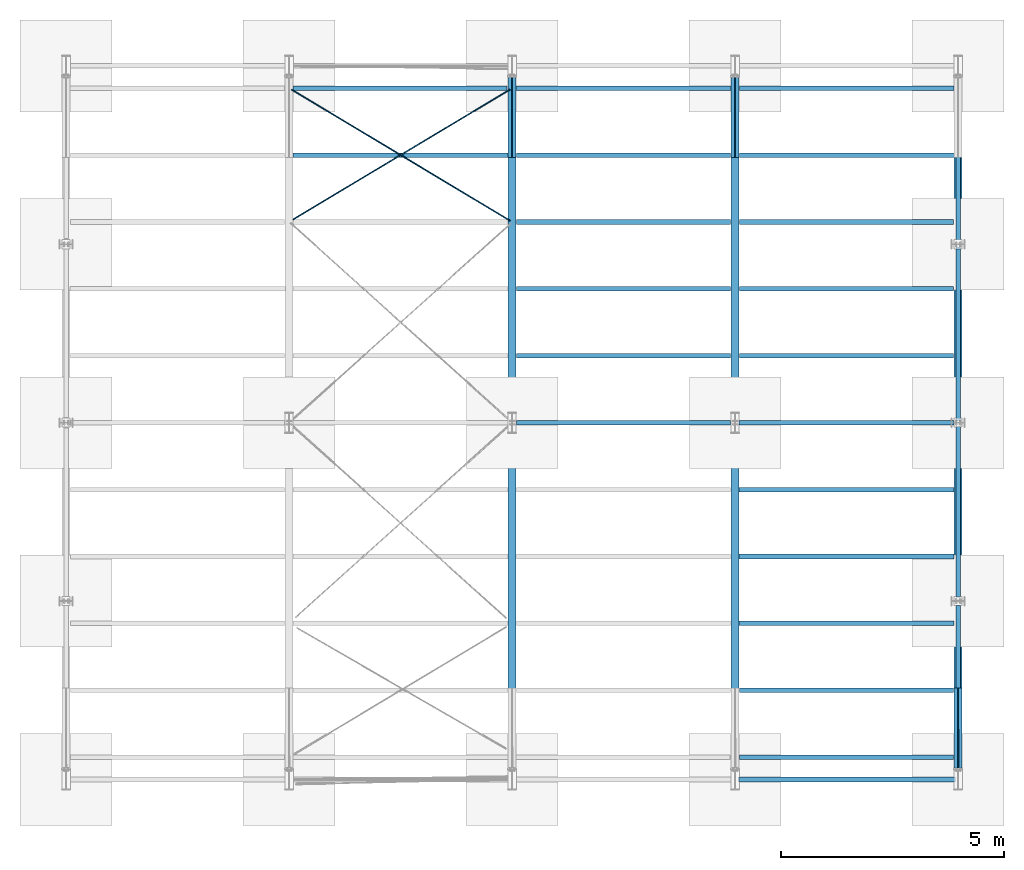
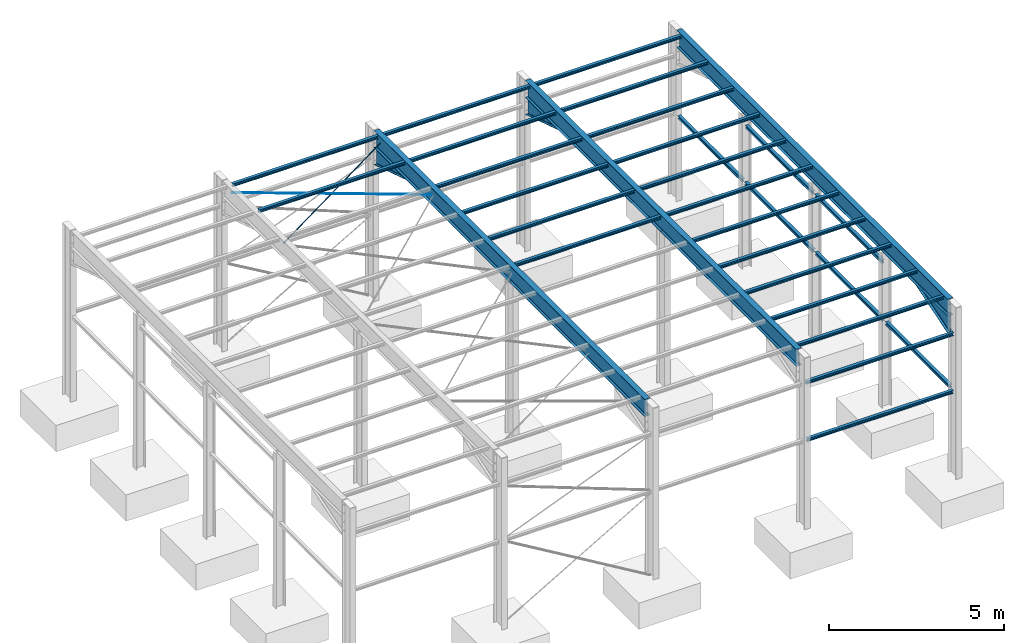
# Not in any storey, part 4 of 51: 32 beams, 4 members, 24 openings.
"""IFC4 model written with IfcOpenShell, lengths in feet."""

from ifc_helpers import new_model, entity, si_unit, converted_unit, direction, frame, frame_2d, origin, origin_2d, place, context, project, spatial, polyline, circle, i_section, outline, extrude, clip, halfspace, material, type_object, element, save


model = new_model("IFC4")

# Units and contexts
model_context = context("Model", 3, precision=0.0001, world=origin(), true_north=direction((6.123233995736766e-17, 1.0)))
ifc_project = project(units=[converted_unit("LENGTHUNIT", "FOOT", entity("IfcLengthMeasure", 0.3048), si_unit("LENGTHUNIT", "METRE"), dimensions=[1, 0, 0, 0, 0, 0, 0]), converted_unit("AREAUNIT", "SQUARE INCH", entity("IfcAreaMeasure", 0.0006451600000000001), si_unit("AREAUNIT", "SQUARE_METRE"), dimensions=[2, 0, 0, 0, 0, 0, 0]), converted_unit("PLANEANGLEUNIT", "DEGREE", entity("IfcPlaneAngleMeasure", 0.017453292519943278), si_unit("PLANEANGLEUNIT", "RADIAN"), dimensions=[0, 0, 0, 0, 0, 0, 0]), si_unit("VOLUMEUNIT", "CUBIC_METRE")], contexts=[model_context])

# Site
site_placement = place(None, origin())
site = spatial("IfcSite", under=ifc_project, at=site_placement, Name="Default", CompositionType="ELEMENT")

# Beam, openings
ifc_material_1 = material(Name="Steel ASTM A992", Category="Metal")
beam_type_1 = type_object("IfcBeamType", Name="W Shapes:W24X55", PredefinedType="BEAM")
beam_1_placement = place(site_placement, frame((44.06213571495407, 60.94091803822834, 18.701706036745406), z_axis=(0.0, 1.0, 0.0), x_axis=(-1.0, 0.0, 0.0)))
beam_1 = element("IfcBeam", 1, at=beam_1_placement, inside=site, type_object=beam_type_1, material=ifc_material_1, Name="W Shapes:W24X55", ObjectType="W24X55", context=model_context, shape_type="Clipping", body=[
    clip(clip(extrude(i_section(OverallWidth=0.5841666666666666, OverallDepth=1.9666666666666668, WebThickness=0.032916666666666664, FlangeThickness=0.042083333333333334, FilletRadius=0.042083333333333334, at=origin_2d()), origin(), (0.0, 0.0, -1.0), 57.71409169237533), halfspace(frame((44.06213571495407, -18.701706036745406, -3.824749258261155), z_axis=(0.0, 0.0, -1.0), x_axis=(-1.0, 0.0, 0.0)), True)), halfspace(frame((44.06213571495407, -18.701706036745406, -54.65361408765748), z_axis=(0.0, 0.0, 1.0), x_axis=(1.0, 0.0, 0.0)), True)),
])
opening_1_placement = place(beam_1_placement, frame((0.0, -0.9849737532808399, -29.23918167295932), z_axis=(0.0, 1.0, 0.0), x_axis=(0.0, 0.0, -1.0)))
element("IfcOpeningElement", 2, at=opening_1_placement, cuts=beam_1, ObjectType="Opening", context=model_context, shape_type="SweptSolid", body=[
    extrude(circle(Radius=0.03385744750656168, at=frame_2d((0.125, 0.14583333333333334), x_axis=(1.0, 0.0))), origin(), (0.0, 0.0, 1.0), 0.045364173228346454),
])
opening_2_placement = place(beam_1_placement, frame((0.0, -0.9849737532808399, -29.23918167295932), z_axis=(0.0, 1.0, 0.0), x_axis=(0.0, 0.0, -1.0)))
element("IfcOpeningElement", 3, at=opening_2_placement, cuts=beam_1, ObjectType="Opening", context=model_context, shape_type="SweptSolid", body=[
    extrude(circle(Radius=0.03385744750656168, at=frame_2d((-0.125, 0.14583333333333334), x_axis=(1.0, 0.0))), origin(), (0.0, 0.0, 1.0), 0.045364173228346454),
])
opening_3_placement = place(beam_1_placement, frame((0.0, -0.9849737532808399, -29.23918167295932), z_axis=(0.0, 1.0, 0.0), x_axis=(0.0, 0.0, -1.0)))
element("IfcOpeningElement", 4, at=opening_3_placement, cuts=beam_1, ObjectType="Opening", context=model_context, shape_type="SweptSolid", body=[
    extrude(circle(Radius=0.03385744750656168, at=frame_2d((0.125, -0.14583333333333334), x_axis=(1.0, 0.0))), origin(), (0.0, 0.0, 1.0), 0.045364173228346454),
])
opening_4_placement = place(beam_1_placement, frame((0.0, -0.9849737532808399, -29.23918167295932), z_axis=(0.0, 1.0, 0.0), x_axis=(0.0, 0.0, -1.0)))
element("IfcOpeningElement", 5, at=opening_4_placement, cuts=beam_1, ObjectType="Opening", context=model_context, shape_type="SweptSolid", body=[
    extrude(circle(Radius=0.03385744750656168, at=frame_2d((-0.125, -0.14583333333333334), x_axis=(1.0, 0.0))), origin(), (0.0, 0.0, 1.0), 0.045364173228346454),
])

beam_2_placement = place(site_placement, frame((60.46633519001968, 60.94091803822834, 18.701706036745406), z_axis=(0.0, 1.0, 0.0), x_axis=(-1.0, 0.0, 0.0)))
beam_2 = element("IfcBeam", 6, at=beam_2_placement, inside=site, type_object=beam_type_1, material=ifc_material_1, Name="W Shapes:W24X55", ObjectType="W24X55", context=model_context, shape_type="Clipping", body=[
    clip(clip(extrude(i_section(OverallWidth=0.5841666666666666, OverallDepth=1.9666666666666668, WebThickness=0.032916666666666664, FlangeThickness=0.042083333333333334, FilletRadius=0.042083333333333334, at=origin_2d()), origin(), (0.0, 0.0, -1.0), 57.734925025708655), halfspace(frame((60.46633519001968, -18.701706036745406, -54.65361408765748), z_axis=(0.0, 0.0, 1.0), x_axis=(1.0, 0.0, 0.0)), True)), halfspace(frame((60.46633519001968, -18.701706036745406, -3.824749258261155), z_axis=(0.0, 0.0, -1.0), x_axis=(-1.0, 0.0, 0.0)), True)),
])
opening_5_placement = place(beam_2_placement, frame((0.0, -0.9849737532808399, -29.23918167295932), z_axis=(0.0, 1.0, 0.0), x_axis=(0.0, 0.0, -1.0)))
element("IfcOpeningElement", 7, at=opening_5_placement, cuts=beam_2, ObjectType="Opening", context=model_context, shape_type="SweptSolid", body=[
    extrude(circle(Radius=0.03385744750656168, at=frame_2d((0.125, 0.14583333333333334), x_axis=(1.0, 0.0))), origin(), (0.0, 0.0, 1.0), 0.045364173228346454),
])
opening_6_placement = place(beam_2_placement, frame((0.0, -0.9849737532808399, -29.23918167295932), z_axis=(0.0, 1.0, 0.0), x_axis=(0.0, 0.0, -1.0)))
element("IfcOpeningElement", 8, at=opening_6_placement, cuts=beam_2, ObjectType="Opening", context=model_context, shape_type="SweptSolid", body=[
    extrude(circle(Radius=0.03385744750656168, at=frame_2d((-0.125, 0.14583333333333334), x_axis=(1.0, 0.0))), origin(), (0.0, 0.0, 1.0), 0.045364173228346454),
])
opening_7_placement = place(beam_2_placement, frame((0.0, -0.9849737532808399, -29.23918167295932), z_axis=(0.0, 1.0, 0.0), x_axis=(0.0, 0.0, -1.0)))
element("IfcOpeningElement", 9, at=opening_7_placement, cuts=beam_2, ObjectType="Opening", context=model_context, shape_type="SweptSolid", body=[
    extrude(circle(Radius=0.03385744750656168, at=frame_2d((0.125, -0.14583333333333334), x_axis=(1.0, 0.0))), origin(), (0.0, 0.0, 1.0), 0.045364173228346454),
])
opening_8_placement = place(beam_2_placement, frame((0.0, -0.9849737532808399, -29.23918167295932), z_axis=(0.0, 1.0, 0.0), x_axis=(0.0, 0.0, -1.0)))
element("IfcOpeningElement", 10, at=opening_8_placement, cuts=beam_2, ObjectType="Opening", context=model_context, shape_type="SweptSolid", body=[
    extrude(circle(Radius=0.03385744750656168, at=frame_2d((-0.125, -0.14583333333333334), x_axis=(1.0, 0.0))), origin(), (0.0, 0.0, 1.0), 0.045364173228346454),
])

beam_3_placement = place(site_placement, frame((76.87053466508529, 60.94091803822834, 18.701706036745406), z_axis=(0.0, 1.0, 0.0), x_axis=(-1.0, 0.0, 0.0)))
beam_3 = element("IfcBeam", 11, at=beam_3_placement, inside=site, type_object=beam_type_1, material=ifc_material_1, Name="W Shapes:W24X55", ObjectType="W24X55", context=model_context, shape_type="Clipping", body=[
    clip(clip(clip(extrude(i_section(OverallWidth=0.5841666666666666, OverallDepth=1.9666666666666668, WebThickness=0.032916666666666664, FlangeThickness=0.042083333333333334, FilletRadius=0.042083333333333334, at=origin_2d()), origin(), (0.0, 0.0, -1.0), 58.47836334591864), halfspace(frame((76.87053466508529, -18.701706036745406, -3.824749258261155), z_axis=(0.0, 0.0, -1.0), x_axis=(-1.0, 0.0, 0.0)), True)), halfspace(frame((76.87053466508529, -18.701706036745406, -54.65361408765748), z_axis=(0.0, 0.0, 1.0), x_axis=(1.0, 0.0, 0.0)), True)), halfspace(frame((76.87053466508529, -18.701706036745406, -54.65361408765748), z_axis=(0.0, 0.0, 1.0), x_axis=(1.0, 0.0, 0.0)), True)),
])
opening_9_placement = place(beam_3_placement, frame((0.0, -0.9849737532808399, -42.36254125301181), z_axis=(0.0, 1.0, 0.0), x_axis=(0.0, 0.0, -1.0)))
element("IfcOpeningElement", 12, at=opening_9_placement, cuts=beam_3, ObjectType="Opening", context=model_context, shape_type="SweptSolid", body=[
    extrude(circle(Radius=0.03385744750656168, at=frame_2d((0.125, 0.14583333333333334), x_axis=(1.0, 0.0))), origin(), (0.0, 0.0, 1.0), 0.045364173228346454),
])
opening_10_placement = place(beam_3_placement, frame((0.0, -0.9849737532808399, -42.36254125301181), z_axis=(0.0, 1.0, 0.0), x_axis=(0.0, 0.0, -1.0)))
element("IfcOpeningElement", 13, at=opening_10_placement, cuts=beam_3, ObjectType="Opening", context=model_context, shape_type="SweptSolid", body=[
    extrude(circle(Radius=0.03385744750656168, at=frame_2d((-0.125, 0.14583333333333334), x_axis=(1.0, 0.0))), origin(), (0.0, 0.0, 1.0), 0.045364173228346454),
])
opening_11_placement = place(beam_3_placement, frame((0.0, -0.9849737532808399, -42.36254125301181), z_axis=(0.0, 1.0, 0.0), x_axis=(0.0, 0.0, -1.0)))
element("IfcOpeningElement", 14, at=opening_11_placement, cuts=beam_3, ObjectType="Opening", context=model_context, shape_type="SweptSolid", body=[
    extrude(circle(Radius=0.03385744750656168, at=frame_2d((0.125, -0.14583333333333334), x_axis=(1.0, 0.0))), origin(), (0.0, 0.0, 1.0), 0.045364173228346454),
])
opening_12_placement = place(beam_3_placement, frame((0.0, -0.9849737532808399, -42.36254125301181), z_axis=(0.0, 1.0, 0.0), x_axis=(0.0, 0.0, -1.0)))
element("IfcOpeningElement", 15, at=opening_12_placement, cuts=beam_3, ObjectType="Opening", context=model_context, shape_type="SweptSolid", body=[
    extrude(circle(Radius=0.03385744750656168, at=frame_2d((-0.125, -0.14583333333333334), x_axis=(1.0, 0.0))), origin(), (0.0, 0.0, 1.0), 0.045364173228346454),
])
opening_13_placement = place(beam_3_placement, frame((0.0, -0.9849737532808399, -29.23918167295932), z_axis=(0.0, 1.0, 0.0), x_axis=(0.0, 0.0, -1.0)))
element("IfcOpeningElement", 16, at=opening_13_placement, cuts=beam_3, ObjectType="Opening", context=model_context, shape_type="SweptSolid", body=[
    extrude(circle(Radius=0.03385744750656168, at=frame_2d((0.125, 0.14583333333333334), x_axis=(1.0, 0.0))), origin(), (0.0, 0.0, 1.0), 0.045364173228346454),
])
opening_14_placement = place(beam_3_placement, frame((0.0, -0.9849737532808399, -29.23918167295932), z_axis=(0.0, 1.0, 0.0), x_axis=(0.0, 0.0, -1.0)))
element("IfcOpeningElement", 17, at=opening_14_placement, cuts=beam_3, ObjectType="Opening", context=model_context, shape_type="SweptSolid", body=[
    extrude(circle(Radius=0.03385744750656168, at=frame_2d((-0.125, 0.14583333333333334), x_axis=(1.0, 0.0))), origin(), (0.0, 0.0, 1.0), 0.045364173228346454),
])
opening_15_placement = place(beam_3_placement, frame((0.0, -0.9849737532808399, -29.23918167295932), z_axis=(0.0, 1.0, 0.0), x_axis=(0.0, 0.0, -1.0)))
element("IfcOpeningElement", 18, at=opening_15_placement, cuts=beam_3, ObjectType="Opening", context=model_context, shape_type="SweptSolid", body=[
    extrude(circle(Radius=0.03385744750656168, at=frame_2d((0.125, -0.14583333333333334), x_axis=(1.0, 0.0))), origin(), (0.0, 0.0, 1.0), 0.045364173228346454),
])
opening_16_placement = place(beam_3_placement, frame((0.0, -0.9849737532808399, -29.23918167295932), z_axis=(0.0, 1.0, 0.0), x_axis=(0.0, 0.0, -1.0)))
element("IfcOpeningElement", 19, at=opening_16_placement, cuts=beam_3, ObjectType="Opening", context=model_context, shape_type="SweptSolid", body=[
    extrude(circle(Radius=0.03385744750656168, at=frame_2d((-0.125, -0.14583333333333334), x_axis=(1.0, 0.0))), origin(), (0.0, 0.0, 1.0), 0.045364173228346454),
])
opening_17_placement = place(beam_3_placement, frame((0.0, -0.9849737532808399, -16.115822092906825), z_axis=(0.0, 1.0, 0.0), x_axis=(0.0, 0.0, 1.0)))
element("IfcOpeningElement", 20, at=opening_17_placement, cuts=beam_3, ObjectType="Opening", context=model_context, shape_type="SweptSolid", body=[
    extrude(circle(Radius=0.03385744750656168, at=frame_2d((0.125, 0.14583333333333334), x_axis=(1.0, 0.0))), origin(), (0.0, 0.0, 1.0), 0.045364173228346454),
])
opening_18_placement = place(beam_3_placement, frame((0.0, -0.9849737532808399, -16.115822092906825), z_axis=(0.0, 1.0, 0.0), x_axis=(0.0, 0.0, 1.0)))
element("IfcOpeningElement", 21, at=opening_18_placement, cuts=beam_3, ObjectType="Opening", context=model_context, shape_type="SweptSolid", body=[
    extrude(circle(Radius=0.03385744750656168, at=frame_2d((-0.125, 0.14583333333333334), x_axis=(1.0, 0.0))), origin(), (0.0, 0.0, 1.0), 0.045364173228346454),
])
opening_19_placement = place(beam_3_placement, frame((0.0, -0.9849737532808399, -16.115822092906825), z_axis=(0.0, 1.0, 0.0), x_axis=(0.0, 0.0, 1.0)))
element("IfcOpeningElement", 22, at=opening_19_placement, cuts=beam_3, ObjectType="Opening", context=model_context, shape_type="SweptSolid", body=[
    extrude(circle(Radius=0.03385744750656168, at=frame_2d((0.125, -0.14583333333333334), x_axis=(1.0, 0.0))), origin(), (0.0, 0.0, 1.0), 0.045364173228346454),
])
opening_20_placement = place(beam_3_placement, frame((0.0, -0.9849737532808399, -16.115822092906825), z_axis=(0.0, 1.0, 0.0), x_axis=(0.0, 0.0, 1.0)))
element("IfcOpeningElement", 23, at=opening_20_placement, cuts=beam_3, ObjectType="Opening", context=model_context, shape_type="SweptSolid", body=[
    extrude(circle(Radius=0.03385744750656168, at=frame_2d((-0.125, -0.14583333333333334), x_axis=(1.0, 0.0))), origin(), (0.0, 0.0, 1.0), 0.045364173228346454),
])

# Beams
beam_type_2 = type_object("IfcBeamType", Name="W Shapes:W4X13", PredefinedType="BEAM")
beam_4_placement = place(site_placement, frame((60.79966852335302, 5.455017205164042, 9.669186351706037), z_axis=(-1.0, 0.0, 0.0), x_axis=(0.0, -1.0, 0.0)))
element("IfcBeam", 24, at=beam_4_placement, inside=site, type_object=beam_type_2, material=ifc_material_1, Name="W Shapes:W4X13", ObjectType="W4X13", context=model_context, shape_type="SweptSolid", body=[
    extrude(i_section(OverallWidth=0.3383333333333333, OverallDepth=0.3466666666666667, WebThickness=0.023333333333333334, FlangeThickness=0.028749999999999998, FilletRadius=0.020833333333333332, at=origin_2d()), origin(), (0.0, 0.0, -1.0), 15.833333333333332),
])
beam_5_placement = place(site_placement, frame((76.87053466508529, 6.245043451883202, 9.669186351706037), z_axis=(0.0, -1.0, 0.0), x_axis=(1.0, 0.0, 0.0)))
element("IfcBeam", 25, at=beam_5_placement, inside=site, type_object=beam_type_2, material=ifc_material_1, Name="W Shapes:W4X13", ObjectType="W4X13", context=model_context, shape_type="SweptSolid", body=[
    extrude(i_section(OverallWidth=0.3383333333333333, OverallDepth=0.3466666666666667, WebThickness=0.023333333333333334, FlangeThickness=0.028749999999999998, FilletRadius=0.020833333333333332, at=origin_2d()), origin(), (0.0, 0.0, -1.0), 12.0),
])
beam_6_placement = place(site_placement, frame((76.87053466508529, 18.828376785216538, 9.669186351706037), z_axis=(0.0, -1.0, 0.0), x_axis=(1.0, 0.0, 0.0)))
element("IfcBeam", 26, at=beam_6_placement, inside=site, type_object=beam_type_2, material=ifc_material_1, Name="W Shapes:W4X13", ObjectType="W4X13", context=model_context, shape_type="SweptSolid", body=[
    extrude(i_section(OverallWidth=0.3383333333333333, OverallDepth=0.3466666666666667, WebThickness=0.023333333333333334, FlangeThickness=0.028749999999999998, FilletRadius=0.020833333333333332, at=origin_2d()), origin(), (0.0, 0.0, -1.0), 12.583333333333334),
])
beam_7_placement = place(site_placement, frame((76.87053466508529, 31.868403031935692, 9.669186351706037), z_axis=(0.0, -1.0, 0.0), x_axis=(1.0, 0.0, 0.0)))
element("IfcBeam", 27, at=beam_7_placement, inside=site, type_object=beam_type_2, material=ifc_material_1, Name="W Shapes:W4X13", ObjectType="W4X13", context=model_context, shape_type="SweptSolid", body=[
    extrude(i_section(OverallWidth=0.3383333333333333, OverallDepth=0.3466666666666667, WebThickness=0.023333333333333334, FlangeThickness=0.028749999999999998, FilletRadius=0.020833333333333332, at=origin_2d()), origin(), (0.0, 0.0, -1.0), 12.749999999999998),
])
beam_8_placement = place(site_placement, frame((76.87053466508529, 45.15842927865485, 9.669186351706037), z_axis=(0.0, -1.0, 0.0), x_axis=(1.0, 0.0, 0.0)))
element("IfcBeam", 28, at=beam_8_placement, inside=site, type_object=beam_type_2, material=ifc_material_1, Name="W Shapes:W4X13", ObjectType="W4X13", context=model_context, shape_type="SweptSolid", body=[
    extrude(i_section(OverallWidth=0.3383333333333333, OverallDepth=0.3466666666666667, WebThickness=0.023333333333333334, FlangeThickness=0.028749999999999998, FilletRadius=0.020833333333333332, at=origin_2d()), origin(), (0.0, 0.0, -1.0), 12.0),
])
beam_9_placement = place(site_placement, frame((60.673150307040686, 5.455017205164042, 16.261706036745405), z_axis=(-1.0, 0.0, 0.0), x_axis=(0.0, -1.0, 0.0)))
element("IfcBeam", 29, at=beam_9_placement, inside=site, type_object=beam_type_2, material=ifc_material_1, Name="W Shapes:W4X13", ObjectType="W4X13", context=model_context, shape_type="SweptSolid", body=[
    extrude(i_section(OverallWidth=0.3383333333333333, OverallDepth=0.3466666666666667, WebThickness=0.023333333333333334, FlangeThickness=0.028749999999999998, FilletRadius=0.020833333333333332, at=origin_2d()), origin(), (0.0, 0.0, -1.0), 15.994495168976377),
])
beam_10_placement = place(site_placement, frame((76.87053466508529, 18.906749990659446, 16.261706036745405), z_axis=(0.0, -1.0, 0.0), x_axis=(1.0, 0.0, 0.0)))
element("IfcBeam", 30, at=beam_10_placement, inside=site, type_object=beam_type_2, material=ifc_material_1, Name="W Shapes:W4X13", ObjectType="W4X13", context=model_context, shape_type="SweptSolid", body=[
    extrude(i_section(OverallWidth=0.3383333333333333, OverallDepth=0.3466666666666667, WebThickness=0.023333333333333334, FlangeThickness=0.028749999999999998, FilletRadius=0.020833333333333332, at=origin_2d()), origin(), (0.0, 0.0, -1.0), 12.558831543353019),
])
beam_11_placement = place(site_placement, frame((76.87053466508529, 31.945528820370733, 16.261706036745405), z_axis=(0.0, -1.0, 0.0), x_axis=(1.0, 0.0, 0.0)))
element("IfcBeam", 31, at=beam_11_placement, inside=site, type_object=beam_type_2, material=ifc_material_1, Name="W Shapes:W4X13", ObjectType="W4X13", context=model_context, shape_type="SweptSolid", body=[
    extrude(i_section(OverallWidth=0.3383333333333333, OverallDepth=0.3466666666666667, WebThickness=0.023333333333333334, FlangeThickness=0.028749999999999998, FilletRadius=0.020833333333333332, at=origin_2d()), origin(), (0.0, 0.0, -1.0), 12.5431993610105),
])
beam_12_placement = place(site_placement, frame((60.78720133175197, 7.095437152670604, 19.511706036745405), z_axis=(-1.0, 0.0, 0.0), x_axis=(0.0, -1.0, 0.0)))
element("IfcBeam", 32, at=beam_12_placement, inside=site, type_object=beam_type_2, material=ifc_material_1, Name="W Shapes:W4X13", ObjectType="W4X13", context=model_context, shape_type="SweptSolid", body=[
    extrude(i_section(OverallWidth=0.3383333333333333, OverallDepth=0.3466666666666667, WebThickness=0.023333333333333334, FlangeThickness=0.028749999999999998, FilletRadius=0.020833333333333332, at=origin_2d()), origin(), (0.0, 0.0, -1.0), 15.75),
])
beam_13_placement = place(site_placement, frame((27.949602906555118, 56.30803557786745, 19.511706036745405), z_axis=(1.0, 0.0, 0.0), x_axis=(0.0, 1.0, 0.0)))
element("IfcBeam", 33, at=beam_13_placement, inside=site, type_object=beam_type_2, material=ifc_material_1, Name="W Shapes:W4X13", ObjectType="W4X13", context=model_context, shape_type="SweptSolid", body=[
    extrude(i_section(OverallWidth=0.3383333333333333, OverallDepth=0.3466666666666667, WebThickness=0.023333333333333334, FlangeThickness=0.028749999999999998, FilletRadius=0.020833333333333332, at=origin_2d()), origin(), (0.0, 0.0, 1.0), 15.75),
])
beam_14_placement = place(site_placement, frame((44.341335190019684, 56.30803557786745, 19.511706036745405), z_axis=(1.0, 0.0, 0.0), x_axis=(0.0, 1.0, 0.0)))
element("IfcBeam", 34, at=beam_14_placement, inside=site, type_object=beam_type_2, material=ifc_material_1, Name="W Shapes:W4X13", ObjectType="W4X13", context=model_context, shape_type="SweptSolid", body=[
    extrude(i_section(OverallWidth=0.3383333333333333, OverallDepth=0.3466666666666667, WebThickness=0.023333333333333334, FlangeThickness=0.028749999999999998, FilletRadius=0.020833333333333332, at=origin_2d()), origin(), (0.0, 0.0, 1.0), 15.833333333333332),
])
beam_15_placement = place(site_placement, frame((60.77883519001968, 56.30803557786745, 19.511706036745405), z_axis=(1.0, 0.0, 0.0), x_axis=(0.0, 1.0, 0.0)))
element("IfcBeam", 35, at=beam_15_placement, inside=site, type_object=beam_type_2, material=ifc_material_1, Name="W Shapes:W4X13", ObjectType="W4X13", context=model_context, shape_type="SweptSolid", body=[
    extrude(i_section(OverallWidth=0.3383333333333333, OverallDepth=0.3466666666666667, WebThickness=0.023333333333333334, FlangeThickness=0.028749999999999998, FilletRadius=0.020833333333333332, at=origin_2d()), origin(), (0.0, 0.0, 1.0), 15.791666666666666),
])
beam_16_placement = place(site_placement, frame((60.77883519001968, 12.016696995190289, 19.511706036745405), z_axis=(-1.0, 0.0, 0.0), x_axis=(0.0, -1.0, 0.0)))
element("IfcBeam", 36, at=beam_16_placement, inside=site, type_object=beam_type_2, material=ifc_material_1, Name="W Shapes:W4X13", ObjectType="W4X13", context=model_context, shape_type="SweptSolid", body=[
    extrude(i_section(OverallWidth=0.3383333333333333, OverallDepth=0.3466666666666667, WebThickness=0.023333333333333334, FlangeThickness=0.028749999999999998, FilletRadius=0.020833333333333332, at=origin_2d()), origin(), (0.0, 0.0, -1.0), 15.75),
])
for number, where, z_axis, x_axis, name in (
    (37, (60.745117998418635, 16.937956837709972, 19.511706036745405), (-1.0, 0.0, 0.0), (0.0, -1.0, 0.0), "W Shapes:W4X13"),
    (38, (60.745117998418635, 21.859216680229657, 19.511706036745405), (-1.0, 0.0, 0.0), (0.0, -1.0, 0.0), "W Shapes:W4X13"),
    (39, (60.745117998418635, 26.780476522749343, 19.511706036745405), (-1.0, 0.0, 0.0), (0.0, -1.0, 0.0), "W Shapes:W4X13"),
):
    element("IfcBeam", number, at=place(site_placement, frame(where, z_axis=z_axis, x_axis=x_axis)), inside=site, type_object=beam_type_2, material=ifc_material_1, Name=name, ObjectType="W4X13", context=model_context, shape_type="SweptSolid", body=[
        extrude(i_section(OverallWidth=0.3383333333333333, OverallDepth=0.3466666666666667, WebThickness=0.023333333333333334, FlangeThickness=0.028749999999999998, FilletRadius=0.020833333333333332, at=origin_2d()), origin(), (0.0, 0.0, -1.0), 15.833333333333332),
    ])
beam_17_placement = place(site_placement, frame((44.37463571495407, 31.701736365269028, 19.511706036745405), z_axis=(-1.0, 0.0, 0.0), x_axis=(0.0, -1.0, 0.0)))
element("IfcBeam", 40, at=beam_17_placement, inside=site, type_object=beam_type_2, material=ifc_material_1, Name="W Shapes:W4X13", ObjectType="W4X13", context=model_context, shape_type="SweptSolid", body=[
    extrude(i_section(OverallWidth=0.3383333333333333, OverallDepth=0.3466666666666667, WebThickness=0.023333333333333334, FlangeThickness=0.028749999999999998, FilletRadius=0.020833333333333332, at=origin_2d()), origin(), (0.0, 0.0, -1.0), 15.75),
])
beam_18_placement = place(site_placement, frame((60.765951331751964, 31.701736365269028, 19.511706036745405), z_axis=(-1.0, 0.0, 0.0), x_axis=(0.0, -1.0, 0.0)))
element("IfcBeam", 41, at=beam_18_placement, inside=site, type_object=beam_type_2, material=ifc_material_1, Name="W Shapes:W4X13", ObjectType="W4X13", context=model_context, shape_type="SweptSolid", body=[
    extrude(i_section(OverallWidth=0.3383333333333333, OverallDepth=0.3466666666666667, WebThickness=0.023333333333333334, FlangeThickness=0.028749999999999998, FilletRadius=0.020833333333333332, at=origin_2d()), origin(), (0.0, 0.0, -1.0), 15.812499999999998),
])
beam_19_placement = place(site_placement, frame((27.93713571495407, 51.38677573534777, 19.511706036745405), z_axis=(1.0, 0.0, 0.0), x_axis=(0.0, 1.0, 0.0)))
element("IfcBeam", 42, at=beam_19_placement, inside=site, type_object=beam_type_2, material=ifc_material_1, Name="W Shapes:W4X13", ObjectType="W4X13", context=model_context, shape_type="SweptSolid", body=[
    extrude(i_section(OverallWidth=0.3383333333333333, OverallDepth=0.3466666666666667, WebThickness=0.023333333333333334, FlangeThickness=0.028749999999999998, FilletRadius=0.020833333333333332, at=origin_2d()), origin(), (0.0, 0.0, 1.0), 15.833333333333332),
])
beam_20_placement = place(site_placement, frame((44.37463571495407, 51.38677573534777, 19.511706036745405), z_axis=(1.0, 0.0, 0.0), x_axis=(0.0, 1.0, 0.0)))
element("IfcBeam", 43, at=beam_20_placement, inside=site, type_object=beam_type_2, material=ifc_material_1, Name="W Shapes:W4X13", ObjectType="W4X13", context=model_context, shape_type="SweptSolid", body=[
    extrude(i_section(OverallWidth=0.3383333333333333, OverallDepth=0.3466666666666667, WebThickness=0.023333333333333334, FlangeThickness=0.028749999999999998, FilletRadius=0.020833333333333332, at=origin_2d()), origin(), (0.0, 0.0, 1.0), 15.75),
])
beam_21_placement = place(site_placement, frame((60.77883519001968, 51.38677573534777, 19.511706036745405), z_axis=(1.0, 0.0, 0.0), x_axis=(0.0, 1.0, 0.0)))
element("IfcBeam", 44, at=beam_21_placement, inside=site, type_object=beam_type_2, material=ifc_material_1, Name="W Shapes:W4X13", ObjectType="W4X13", context=model_context, shape_type="SweptSolid", body=[
    extrude(i_section(OverallWidth=0.3383333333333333, OverallDepth=0.3466666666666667, WebThickness=0.023333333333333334, FlangeThickness=0.028749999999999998, FilletRadius=0.020833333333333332, at=origin_2d()), origin(), (0.0, 0.0, 1.0), 15.833333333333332),
])
for number, where, z_axis, x_axis, name in (
    (45, (44.37463571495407, 46.46551589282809, 19.511706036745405), (1.0, 0.0, 0.0), (0.0, 1.0, 0.0), "W Shapes:W4X13"),
    (46, (60.77883519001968, 46.46551589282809, 19.511706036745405), (1.0, 0.0, 0.0), (0.0, 1.0, 0.0), "W Shapes:W4X13"),
    (47, (44.37463571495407, 41.5442560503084, 19.511706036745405), (1.0, 0.0, 0.0), (0.0, 1.0, 0.0), "W Shapes:W4X13"),
    (48, (60.77883519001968, 41.5442560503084, 19.511706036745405), (1.0, 0.0, 0.0), (0.0, 1.0, 0.0), "W Shapes:W4X13"),
    (49, (44.37463571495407, 36.62299620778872, 19.511706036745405), (1.0, 0.0, 0.0), (0.0, 1.0, 0.0), "W Shapes:W4X13"),
    (50, (60.77883519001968, 36.62299620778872, 19.511706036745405), (1.0, 0.0, 0.0), (0.0, 1.0, 0.0), "W Shapes:W4X13"),
):
    element("IfcBeam", number, at=place(site_placement, frame(where, z_axis=z_axis, x_axis=x_axis)), inside=site, type_object=beam_type_2, material=ifc_material_1, Name=name, ObjectType="W4X13", context=model_context, shape_type="SweptSolid", body=[
        extrude(i_section(OverallWidth=0.3383333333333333, OverallDepth=0.3466666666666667, WebThickness=0.023333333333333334, FlangeThickness=0.028749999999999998, FilletRadius=0.020833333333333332, at=origin_2d()), origin(), (0.0, 0.0, 1.0), 15.75),
    ])
ifc_material_2 = material(Name="Steel ASTM A36", Category="Metal")
beam_type_3 = type_object("IfcBeamType", Name="Round Bars:RB 1", PredefinedType="BEAM")
beam_22_placement = place(site_placement, frame((27.84526820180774, 56.20479131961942, 18.700787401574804), z_axis=(0.85727934, -0.514851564, 0.0), x_axis=(0.514851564, 0.85727934, 0.0)))
element("IfcBeam", 51, at=beam_22_placement, inside=site, type_object=beam_type_3, material=ifc_material_2, Name="Round Bars:RB 1", ObjectType="RB 1", context=model_context, shape_type="SweptSolid", body=[
    extrude(circle(Radius=0.041666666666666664, at=origin_2d()), origin(), (0.0, 0.0, 1.0), 18.729166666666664),
])
beam_23_placement = place(site_placement, frame((43.89426403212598, 56.20731256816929, 18.700787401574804), z_axis=(-0.857492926, -0.514495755, 0.0), x_axis=(0.514495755, -0.857492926, 0.0)))
element("IfcBeam", 52, at=beam_23_placement, inside=site, type_object=beam_type_3, material=ifc_material_2, Name="Round Bars:RB 1", ObjectType="RB 1", context=model_context, shape_type="SweptSolid", body=[
    extrude(circle(Radius=0.041666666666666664, at=origin_2d()), origin(), (0.0, 0.0, 1.0), 18.583333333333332),
])

# Member, opening
member_1_placement = place(site_placement, frame((76.87053466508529, 2.9956133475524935, 15.74704584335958), z_axis=(0.0, -0.952577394, -0.304296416), x_axis=(1.0, 0.0, 0.0)))
member_1 = element("IfcMember", 53, at=member_1_placement, inside=site, Name="Haunch", ObjectType="Haunch", context=model_context, shape_type="Clipping", body=[
    clip(clip(clip(extrude(i_section(OverallWidth=0.5841666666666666, OverallDepth=1.9666666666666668, WebThickness=0.032916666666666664, FlangeThickness=0.042083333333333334, FilletRadius=0.042083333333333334, at=origin_2d()), origin(), (0.0, 0.0, -1.0), 19.390601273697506), halfspace(frame((-76.87053466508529, -16.00192954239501, 1.6561795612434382), z_axis=(0.0, -0.304296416, -0.952577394), x_axis=(-1.0, 0.0, 0.0)), True)), halfspace(frame((-76.87053466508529, 2.789392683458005, 2.253686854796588), z_axis=(0.0, -0.952577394, 0.304296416), x_axis=(-1.0, 0.0, 0.0)), True)), halfspace(frame((-76.87053466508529, -17.79895362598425, -3.96927123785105), z_axis=(0.0, 0.304296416, 0.952577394), x_axis=(1.0, 0.0, 0.0)), True)),
])
opening_21_placement = place(member_1_placement, frame((0.6204954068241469, -0.9833333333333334, -3.141437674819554), z_axis=(-1.0, 0.0, 0.0), x_axis=(0.0, 0.304296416, 0.952577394)))
element("IfcOpeningElement", 54, at=opening_21_placement, cuts=member_1, ObjectType="Opening", context=model_context, shape_type="SweptSolid", body=[
    extrude(outline(polyline([(3.2808398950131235e-06, 1.9521030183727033), (-0.0625079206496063, 1.9521030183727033), (3.2808398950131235e-06, 1.889591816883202), (3.2808398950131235e-06, 1.9521030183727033)])), origin(), (0.0, 0.0, 1.0), 1.2409908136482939),
])

member_2_placement = place(site_placement, frame((44.06213571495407, 60.40785938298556, 15.74704584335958), z_axis=(0.0, 0.952577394, -0.304296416), x_axis=(-1.0, 0.0, 0.0)))
member_2 = element("IfcMember", 55, at=member_2_placement, inside=site, Name="Haunch", ObjectType="Haunch", context=model_context, shape_type="Clipping", body=[
    clip(clip(clip(extrude(i_section(OverallWidth=0.5841666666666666, OverallDepth=1.9666666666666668, WebThickness=0.032916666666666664, FlangeThickness=0.042083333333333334, FilletRadius=0.042083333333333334, at=origin_2d()), origin(), (0.0, 0.0, -1.0), 19.390601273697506), halfspace(frame((44.06213571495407, -16.00192954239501, 1.6561795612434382), z_axis=(0.0, -0.304296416, -0.952577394), x_axis=(-1.0, 0.0, 0.0)), True)), halfspace(frame((44.06213571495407, -16.50405684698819, -58.14302795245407), z_axis=(0.0, -0.952577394, 0.304296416), x_axis=(1.0, 0.0, 0.0)), True)), halfspace(frame((44.06213571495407, -17.79895362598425, -3.96927123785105), z_axis=(0.0, 0.304296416, 0.952577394), x_axis=(1.0, 0.0, 0.0)), True)),
])
opening_22_placement = place(member_2_placement, frame((0.6204954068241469, -0.9833333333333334, -3.141437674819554), z_axis=(-1.0, 0.0, 0.0), x_axis=(0.0, 0.304296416, 0.952577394)))
element("IfcOpeningElement", 56, at=opening_22_placement, cuts=member_2, ObjectType="Opening", context=model_context, shape_type="SweptSolid", body=[
    extrude(outline(polyline([(3.2808398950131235e-06, 1.9521030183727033), (-0.0625079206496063, 1.9521030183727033), (3.2808398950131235e-06, 1.889591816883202), (3.2808398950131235e-06, 1.9521030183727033)])), origin(), (0.0, 0.0, 1.0), 1.2409908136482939),
])

member_3_placement = place(site_placement, frame((60.46633519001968, 60.40785938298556, 15.74704584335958), z_axis=(0.0, 0.952577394, -0.304296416), x_axis=(-1.0, 0.0, 0.0)))
member_3 = element("IfcMember", 57, at=member_3_placement, inside=site, Name="Haunch", ObjectType="Haunch", context=model_context, shape_type="Clipping", body=[
    clip(clip(clip(extrude(i_section(OverallWidth=0.5841666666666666, OverallDepth=1.9666666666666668, WebThickness=0.032916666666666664, FlangeThickness=0.042083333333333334, FilletRadius=0.042083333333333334, at=origin_2d()), origin(), (0.0, 0.0, -1.0), 19.390601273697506), halfspace(frame((60.46633519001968, -16.00192954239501, 1.6561795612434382), z_axis=(0.0, -0.304296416, -0.952577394), x_axis=(-1.0, 0.0, 0.0)), True)), halfspace(frame((60.46633519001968, -16.50405684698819, -58.14302795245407), z_axis=(0.0, -0.952577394, 0.304296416), x_axis=(1.0, 0.0, 0.0)), True)), halfspace(frame((60.46633519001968, -17.79895362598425, -3.96927123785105), z_axis=(0.0, 0.304296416, 0.952577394), x_axis=(1.0, 0.0, 0.0)), True)),
])
opening_23_placement = place(member_3_placement, frame((0.6204954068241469, -0.9833333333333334, -3.141437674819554), z_axis=(-1.0, 0.0, 0.0), x_axis=(0.0, 0.304296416, 0.952577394)))
element("IfcOpeningElement", 58, at=opening_23_placement, cuts=member_3, ObjectType="Opening", context=model_context, shape_type="SweptSolid", body=[
    extrude(outline(polyline([(3.2808398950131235e-06, 1.9521030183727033), (-0.0625079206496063, 1.9521030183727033), (3.2808398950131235e-06, 1.889591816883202), (3.2808398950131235e-06, 1.9521030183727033)])), origin(), (0.0, 0.0, 1.0), 1.2409908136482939),
])

member_4_placement = place(site_placement, frame((76.87053466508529, 2.9956133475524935, 15.74704584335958), z_axis=(0.0, -0.952577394, -0.304296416), x_axis=(1.0, 0.0, 0.0)))
member_4 = element("IfcMember", 59, at=member_4_placement, inside=site, Name="Haunch", ObjectType="Haunch", context=model_context, shape_type="Clipping", body=[
    clip(clip(clip(extrude(i_section(OverallWidth=0.5841666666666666, OverallDepth=1.9666666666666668, WebThickness=0.032916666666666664, FlangeThickness=0.042083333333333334, FilletRadius=0.042083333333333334, at=origin_2d()), origin(), (0.0, 0.0, -1.0), 19.390601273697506), halfspace(frame((-76.87053466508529, -16.00192954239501, 1.6561795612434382), z_axis=(0.0, -0.304296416, -0.952577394), x_axis=(-1.0, 0.0, 0.0)), True)), halfspace(frame((-76.87053466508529, 2.789392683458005, 2.253686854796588), z_axis=(0.0, -0.952577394, 0.304296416), x_axis=(-1.0, 0.0, 0.0)), True)), halfspace(frame((-76.87053466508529, -17.79895362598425, -3.96927123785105), z_axis=(0.0, 0.304296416, 0.952577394), x_axis=(1.0, 0.0, 0.0)), True)),
])
opening_24_placement = place(member_4_placement, frame((0.6204954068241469, -0.9833333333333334, -3.141437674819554), z_axis=(-1.0, 0.0, 0.0), x_axis=(0.0, 0.304296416, 0.952577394)))
element("IfcOpeningElement", 60, at=opening_24_placement, cuts=member_4, ObjectType="Opening", context=model_context, shape_type="SweptSolid", body=[
    extrude(outline(polyline([(3.2808398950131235e-06, 1.9521030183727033), (-0.0625079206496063, 1.9521030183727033), (3.2808398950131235e-06, 1.889591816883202), (3.2808398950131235e-06, 1.9521030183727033)])), origin(), (0.0, 0.0, 1.0), 1.2409908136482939),
])

save(model, "model.ifc")
